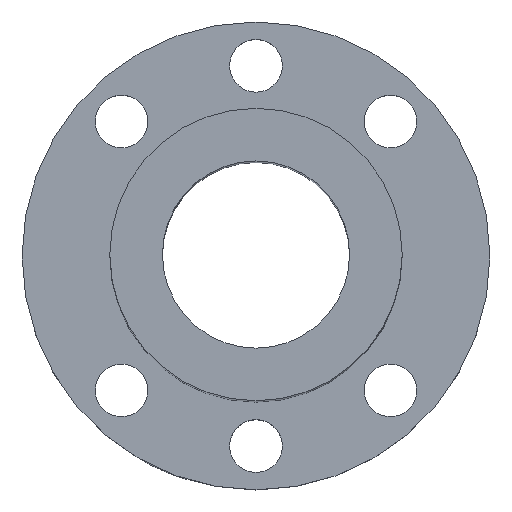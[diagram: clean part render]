
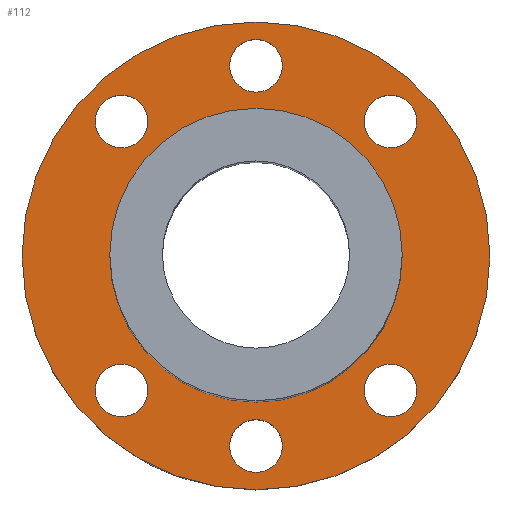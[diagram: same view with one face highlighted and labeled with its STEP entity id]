
A CAD part, top view. The second image highlights one B-rep face of the part: STEP entity #112.
In plain terms, the highlighted planar face has unit normal (0, 0, 1).
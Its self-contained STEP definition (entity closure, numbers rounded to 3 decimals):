
#99=PLANE('',#355);
#112=ADVANCED_FACE('',(#159,#160,#161,#162,#163,#164,#165,#166),#99,.T.);
#159=FACE_BOUND('',#203,.T.);
#160=FACE_BOUND('',#204,.T.);
#161=FACE_BOUND('',#205,.T.);
#162=FACE_BOUND('',#206,.T.);
#163=FACE_BOUND('',#207,.T.);
#164=FACE_BOUND('',#208,.T.);
#165=FACE_BOUND('',#209,.T.);
#166=FACE_BOUND('',#210,.T.);
#203=EDGE_LOOP('',(#247));
#204=EDGE_LOOP('',(#248));
#205=EDGE_LOOP('',(#249));
#206=EDGE_LOOP('',(#250));
#207=EDGE_LOOP('',(#251));
#208=EDGE_LOOP('',(#252));
#209=EDGE_LOOP('',(#253));
#210=EDGE_LOOP('',(#254));
#247=ORIENTED_EDGE('',*,*,#284,.T.);
#248=ORIENTED_EDGE('',*,*,#301,.T.);
#249=ORIENTED_EDGE('',*,*,#300,.F.);
#250=ORIENTED_EDGE('',*,*,#299,.F.);
#251=ORIENTED_EDGE('',*,*,#286,.T.);
#252=ORIENTED_EDGE('',*,*,#298,.T.);
#253=ORIENTED_EDGE('',*,*,#297,.F.);
#254=ORIENTED_EDGE('',*,*,#302,.T.);
#262=VERTEX_POINT('',#437);
#264=VERTEX_POINT('',#499);
#275=VERTEX_POINT('',#582);
#276=VERTEX_POINT('',#585);
#277=VERTEX_POINT('',#588);
#278=VERTEX_POINT('',#591);
#279=VERTEX_POINT('',#594);
#280=VERTEX_POINT('',#597);
#284=EDGE_CURVE('',#262,#262,#306,.T.);
#286=EDGE_CURVE('',#264,#264,#307,.T.);
#297=EDGE_CURVE('',#275,#275,#317,.T.);
#298=EDGE_CURVE('',#276,#276,#318,.T.);
#299=EDGE_CURVE('',#277,#277,#319,.T.);
#300=EDGE_CURVE('',#278,#278,#320,.T.);
#301=EDGE_CURVE('',#279,#279,#321,.T.);
#302=EDGE_CURVE('',#280,#280,#322,.T.);
#306=CIRCLE('',#327,40.);
#307=CIRCLE('',#329,25.);
#317=CIRCLE('',#343,4.5);
#318=CIRCLE('',#345,4.5);
#319=CIRCLE('',#347,4.5);
#320=CIRCLE('',#349,4.5);
#321=CIRCLE('',#351,4.5);
#322=CIRCLE('',#353,4.5);
#327=AXIS2_PLACEMENT_3D('',#436,#365,#366);
#329=AXIS2_PLACEMENT_3D('',#498,#369,#370);
#343=AXIS2_PLACEMENT_3D('',#581,#397,#398);
#345=AXIS2_PLACEMENT_3D('',#584,#401,#402);
#347=AXIS2_PLACEMENT_3D('',#587,#405,#406);
#349=AXIS2_PLACEMENT_3D('',#590,#409,#410);
#351=AXIS2_PLACEMENT_3D('',#593,#413,#414);
#353=AXIS2_PLACEMENT_3D('',#596,#417,#418);
#355=AXIS2_PLACEMENT_3D('',#599,#421,#422);
#365=DIRECTION('',(0.,0.,1.));
#366=DIRECTION('',(1.,0.,0.));
#369=DIRECTION('',(0.,0.,-1.));
#370=DIRECTION('',(1.,0.,0.));
#397=DIRECTION('',(0.,0.,1.));
#398=DIRECTION('',(1.,0.,0.));
#401=DIRECTION('',(0.,0.,-1.));
#402=DIRECTION('',(1.,0.,0.));
#405=DIRECTION('',(0.,0.,1.));
#406=DIRECTION('',(1.,0.,0.));
#409=DIRECTION('',(0.,0.,1.));
#410=DIRECTION('',(-1.,0.,0.));
#413=DIRECTION('',(0.,0.,-1.));
#414=DIRECTION('',(1.,0.,0.));
#417=DIRECTION('',(0.,0.,-1.));
#418=DIRECTION('',(-1.,0.,0.));
#421=DIRECTION('',(0.,0.,1.));
#422=DIRECTION('',(1.,0.,0.));
#436=CARTESIAN_POINT('',(0.,0.,12.));
#437=CARTESIAN_POINT('',(40.,0.,12.));
#498=CARTESIAN_POINT('',(0.,0.,12.));
#499=CARTESIAN_POINT('',(25.,0.,12.));
#581=CARTESIAN_POINT('',(0.,32.5,12.));
#582=CARTESIAN_POINT('',(4.5,32.5,12.));
#584=CARTESIAN_POINT('',(0.,-32.5,12.));
#585=CARTESIAN_POINT('',(4.5,-32.5,12.));
#587=CARTESIAN_POINT('',(-22.981,22.981,12.));
#588=CARTESIAN_POINT('',(-18.481,22.981,12.));
#590=CARTESIAN_POINT('',(22.981,-22.981,12.));
#591=CARTESIAN_POINT('',(18.481,-22.981,12.));
#593=CARTESIAN_POINT('',(-22.981,-22.981,12.));
#594=CARTESIAN_POINT('',(-18.481,-22.981,12.));
#596=CARTESIAN_POINT('',(22.981,22.981,12.));
#597=CARTESIAN_POINT('',(18.481,22.981,12.));
#599=CARTESIAN_POINT('',(-11.49,-11.49,12.));
